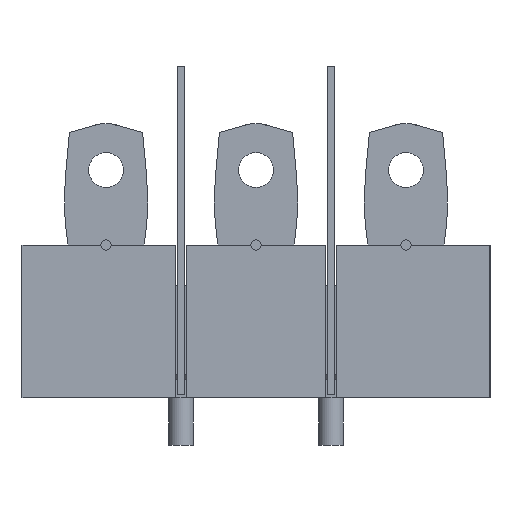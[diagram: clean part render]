
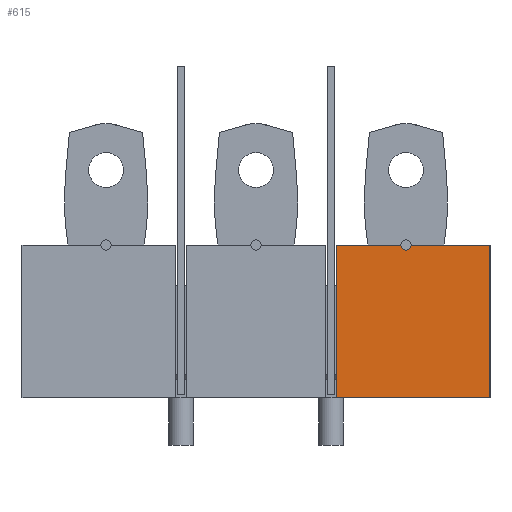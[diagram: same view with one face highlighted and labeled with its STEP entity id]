
A CAD part, left-side view. The second image highlights one B-rep face of the part: STEP entity #615.
In plain terms, the highlighted planar face has unit normal (-1, 0, 0).
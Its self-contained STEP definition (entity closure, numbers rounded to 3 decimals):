
#356=CIRCLE('',#6530,2.);
#615=ADVANCED_FACE('',(#1183),#932,.F.);
#932=PLANE('',#6531);
#1183=FACE_OUTER_BOUND('',#1505,.T.);
#1505=EDGE_LOOP('',(#2518,#2519,#2520,#2521,#2522,#2523));
#2518=ORIENTED_EDGE('',*,*,#4556,.F.);
#2519=ORIENTED_EDGE('',*,*,#4513,.F.);
#2520=ORIENTED_EDGE('',*,*,#4557,.F.);
#2521=ORIENTED_EDGE('',*,*,#4558,.T.);
#2522=ORIENTED_EDGE('',*,*,#4559,.F.);
#2523=ORIENTED_EDGE('',*,*,#4509,.F.);
#3815=VERTEX_POINT('',#9368);
#3816=VERTEX_POINT('',#9370);
#3819=VERTEX_POINT('',#9376);
#3820=VERTEX_POINT('',#9378);
#3857=VERTEX_POINT('',#9464);
#3858=VERTEX_POINT('',#9466);
#4509=EDGE_CURVE('',#3815,#3816,#5304,.T.);
#4513=EDGE_CURVE('',#3819,#3820,#5308,.T.);
#4556=EDGE_CURVE('',#3820,#3815,#356,.T.);
#4557=EDGE_CURVE('',#3857,#3819,#5348,.T.);
#4558=EDGE_CURVE('',#3857,#3858,#5349,.T.);
#4559=EDGE_CURVE('',#3816,#3858,#5350,.T.);
#5304=LINE('',#9369,#5993);
#5308=LINE('',#9377,#5997);
#5348=LINE('',#9463,#6037);
#5349=LINE('',#9465,#6038);
#5350=LINE('',#9467,#6039);
#5993=VECTOR('',#7528,1.);
#5997=VECTOR('',#7532,1.);
#6037=VECTOR('',#7590,1.);
#6038=VECTOR('',#7591,1.);
#6039=VECTOR('',#7592,1.);
#6530=AXIS2_PLACEMENT_3D('',#9462,#7588,#7589);
#6531=AXIS2_PLACEMENT_3D('',#9468,#7593,#7594);
#7528=DIRECTION('',(0.,-1.,0.));
#7532=DIRECTION('',(0.,-1.,0.));
#7588=DIRECTION('',(-1.,0.,0.));
#7589=DIRECTION('',(0.,0.,1.));
#7590=DIRECTION('',(0.,0.,1.));
#7591=DIRECTION('',(0.,-1.,0.));
#7592=DIRECTION('',(0.,0.,-1.));
#7593=DIRECTION('',(1.,0.,0.));
#7594=DIRECTION('',(0.,0.,-1.));
#9368=CARTESIAN_POINT('',(-149.75,-60.,0.));
#9369=CARTESIAN_POINT('',(-149.75,-125.,0.));
#9370=CARTESIAN_POINT('',(-149.75,-90.5,0.));
#9376=CARTESIAN_POINT('',(-149.75,-31.,0.));
#9377=CARTESIAN_POINT('',(-149.75,-125.,0.));
#9378=CARTESIAN_POINT('',(-149.75,-56.,0.));
#9462=CARTESIAN_POINT('',(-149.75,-58.,0.));
#9463=CARTESIAN_POINT('',(-149.75,-31.,1.));
#9464=CARTESIAN_POINT('',(-149.75,-31.,-59.));
#9465=CARTESIAN_POINT('',(-149.75,-125.,-59.));
#9466=CARTESIAN_POINT('',(-149.75,-90.5,-59.));
#9467=CARTESIAN_POINT('',(-149.75,-90.5,-184.));
#9468=CARTESIAN_POINT('',(-149.75,-26.,-184.));
